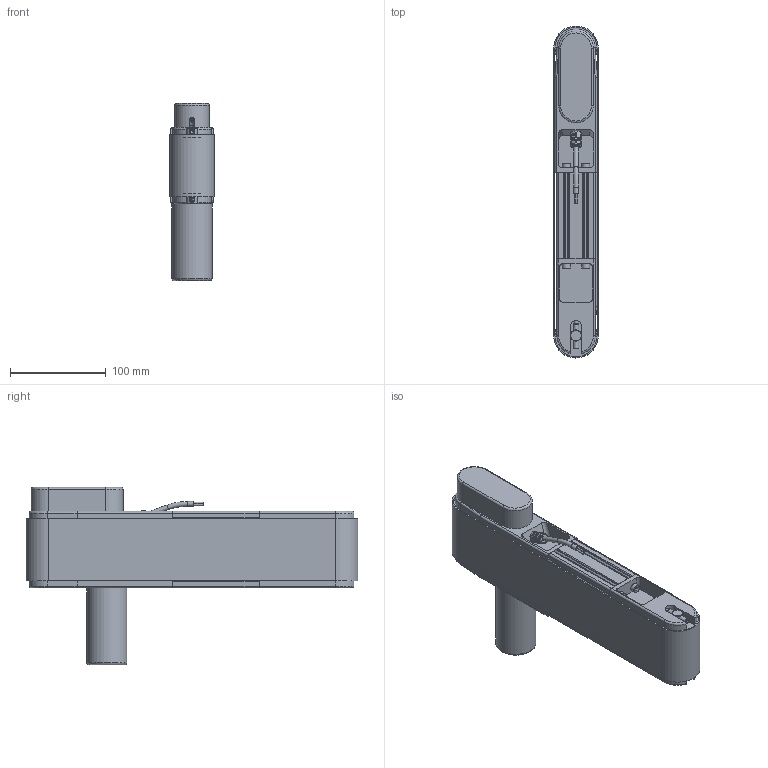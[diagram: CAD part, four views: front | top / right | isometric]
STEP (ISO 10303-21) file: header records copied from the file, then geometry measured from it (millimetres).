
FILE_DESCRIPTION(/* description */ (''),/* implementation_level */ '2;1');
FILE_NAME(/* name */ 'G:\DATEN\CAD\Förderband\Marketing\3D-Modelle (Standard)\FR-40-80-Q\FR-40-80-Q-300-K (Motorendrohr 80 mm).stp',/* time_stamp */ '2019-05-08T14:03:03+02:00',/* author */ ('melanie.ochs'),/* organization */ (''),/* preprocessor_version */ 'ST-DEVELOPER v17',/* originating_system */ 'Autodesk Inventor 2019',/* authorisation */ '');
FILE_SCHEMA (('CONFIG_CONTROL_DESIGN'));
Length unit declared in the file: millimetre
Products named in the file (1): FR-40-80-Q-300-K (Motorendrohr 80 mm)
Bounding box: 46.6 x 346.6 x 185 mm (x, y, z)
Volume: 1036673.9 mm3; surface area: 323037.6 mm2
Topology: 31 solids, 32 shells, 869 faces, 2364 edges, 1606 vertices
Faces by surface type: plane 438, cylinder 271, cone 68, bspline 61, torus 31
Full cylindrical faces by diameter (mm): 2 x2, 4 x6, 4.3 x4, 4.65 x1, 4.917 x2, 5 x11, 5.5 x8, 6 x2, 6.5 x1, 6.773 x1, 6.917 x2, 8 x7, 8.3 x8, 8.5 x8, 8.773 x1, 10 x1, 11 x1, 12 x3, 25 x2, 28 x4, 42 x2, 44 x2
Entity records: 29211 total; most frequent: CARTESIAN_POINT 6159, ORIENTED_EDGE 4692, DIRECTION 4543, EDGE_CURVE 2346, AXIS2_PLACEMENT_3D 1642, VERTEX_POINT 1606, LINE 1259, VECTOR 1259
